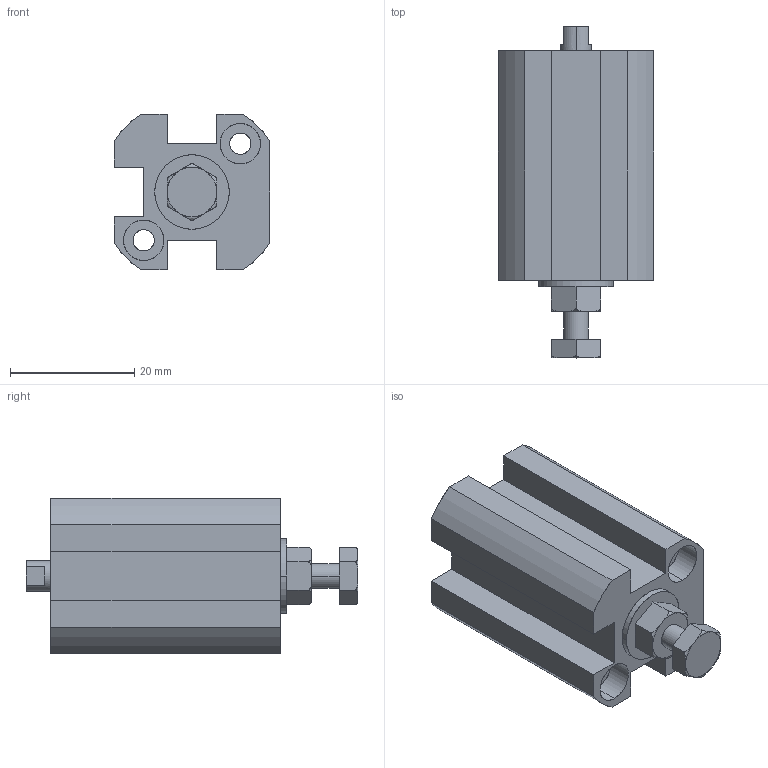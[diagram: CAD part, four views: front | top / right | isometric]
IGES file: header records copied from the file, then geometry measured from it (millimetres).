
Start section: SolidWorks IGES file using analytic representation for surfaces
Global section: file name: C:\Users\Toshiba\Desktop\XGA2-10-10.IGS; native system: SolidWorks 2014; preprocessor: SolidWorks 2014; author: Toshiba; date: 160524.103909; units: millimetre
Bounding box: 25 x 53.5 x 25 mm (x, y, z)
Surface area: 7434.1 mm2 (no closed solid volume)
Topology: 0 solids, 0 shells, 109 faces, 1823 edges, 1819 vertices
Faces by surface type: bspline 62, revolution 47
